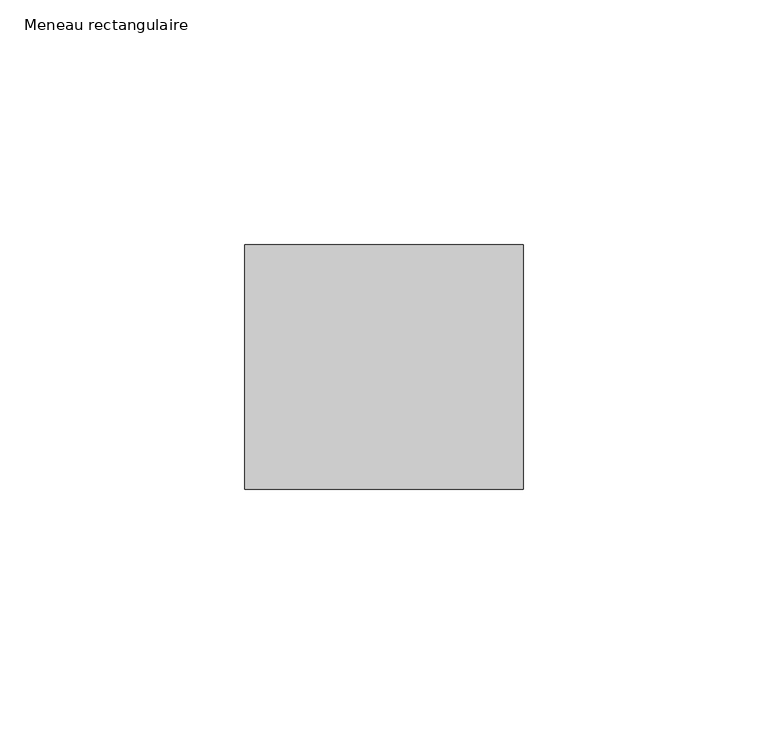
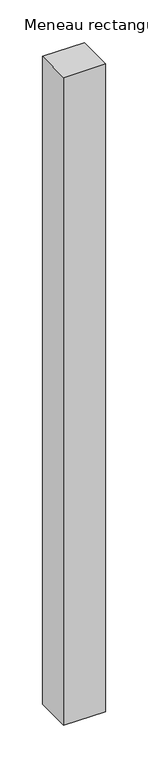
"""IFC4 building model written with IfcOpenShell, lengths in millimetres: member geometry, Meneau rectangulaire : LISSERIE_PLAFOND 85-KLP00-P80-SD57XC."""

import ifcopenshell
import ifcopenshell.guid

model = None  # the IFC model being written
_history = None  # IfcOwnerHistory: only IFC2X3 demands one
_inside = {}  # id of a spatial element -> (the spatial element, [elements in it])
_under = {}  # id of a project, library or spatial element -> (it, [spatial elements below it])
_declared = {}  # id of a project -> (the project, [libraries it declares])
_typed = {}  # id of a type object -> (the type object, [elements of that type])
_made_of = {}  # id of a material, layer set ... -> (it, [elements and type objects made of it])


def new_model(schema):
    """Start an empty IFC model of exactly this schema.

    Asked for "IFC4X3", IfcOpenShell would pick the latest addendum, in which some entities
    have other attributes; the version numbers below select the first issue.
    IFC2X3 requires an IfcOwnerHistory on every rooted entity: one is made here for all.
    """
    global model, _history
    if schema == "IFC4X3":
        model = ifcopenshell.file(schema_version=(4, 3, 0, 0))
    else:
        model = ifcopenshell.file(schema=schema)
    _inside.clear()
    _under.clear()
    _declared.clear()
    _typed.clear()
    _made_of.clear()
    _history = None
    if model.schema == "IFC2X3":
        org = make("IfcOrganization", Name="unknown")
        user = make(
            "IfcPersonAndOrganization",
            ThePerson=make("IfcPerson", FamilyName="unknown"),
            TheOrganization=org,
        )
        app = make(
            "IfcApplication",
            ApplicationDeveloper=org,
            Version="unknown",
            ApplicationFullName="unknown",
            ApplicationIdentifier="unknown",
        )
        _history = make(
            "IfcOwnerHistory",
            OwningUser=user,
            OwningApplication=app,
            ChangeAction="ADDED",
            CreationDate=0,
        )
    return model


def make(cls, **values):
    """One entity of the class cls with the attributes given. An attribute that is None is left unset."""
    return model.create_entity(
        cls, **{name: value for name, value in values.items() if value is not None}
    )


def rooted(cls, **values):
    """An entity with a GlobalId (a new one), such as an element, a storey or a relation."""
    return make(cls, GlobalId=ifcopenshell.guid.new(), OwnerHistory=_history, **values)


def si_unit(unit_type, name, prefix=None):
    """IfcSIUnit, for example si_unit("LENGTHUNIT", "METRE", prefix="MILLI")."""
    return make("IfcSIUnit", UnitType=unit_type, Prefix=prefix, Name=name)


def assignment(units):
    """IfcUnitAssignment: the units of a project."""
    return None if units is None else make("IfcUnitAssignment", Units=units)


def point(xyz):
    """IfcCartesianPoint."""
    return None if xyz is None else make("IfcCartesianPoint", Coordinates=xyz)


def direction(xyz):
    """IfcDirection."""
    return None if xyz is None else make("IfcDirection", DirectionRatios=xyz)


def frame(location, z_axis=None, x_axis=None):
    """IfcAxis2Placement3D, a coordinate frame: its origin and axes. An axis left out is left unset."""
    return make(
        "IfcAxis2Placement3D",
        Location=point(location),
        Axis=direction(z_axis),
        RefDirection=direction(x_axis),
    )


def origin():
    """The frame at (0, 0, 0) with its axes left unset."""
    return frame((0.0, 0.0, 0.0))


def place(relative_to, where):
    """IfcLocalPlacement: puts the frame where relative to a parent placement (None: the world)."""
    return make(
        "IfcLocalPlacement", PlacementRelTo=relative_to, RelativePlacement=where
    )


def context(
    kind, dimensions, precision=None, world=None, true_north=None, identifier=None
):
    """IfcGeometricRepresentationContext, for example the 3D "Model" context."""
    return make(
        "IfcGeometricRepresentationContext",
        ContextIdentifier=identifier,
        ContextType=kind,
        CoordinateSpaceDimension=dimensions,
        Precision=precision,
        WorldCoordinateSystem=world,
        TrueNorth=true_north,
    )


def project(units=None, contexts=None):
    """IfcProject with its units and contexts."""
    return rooted(
        "IfcProject",
        Name="project",
        RepresentationContexts=contexts,
        UnitsInContext=assignment(units),
    )


def spatial(cls, under=None, at=None, **own):
    """A site, building, storey or space (cls), placed at a placement, below another one or the project."""
    s = rooted(cls, ObjectPlacement=at, **own)
    if under is not None:
        _under.setdefault(under.id(), (under, []))[1].append(s)
    return s


def polyline(points):
    """IfcPolyline through the points."""
    return make("IfcPolyline", Points=[point(p) for p in points])


def outline(outer, holes=None, kind="AREA"):
    """IfcArbitraryClosedProfileDef: a profile drawn as a closed curve; with holes, ...WithVoids."""
    if holes is None:
        return make("IfcArbitraryClosedProfileDef", ProfileType=kind, OuterCurve=outer)
    return make(
        "IfcArbitraryProfileDefWithVoids",
        ProfileType=kind,
        OuterCurve=outer,
        InnerCurves=holes,
    )


def extrude(swept, where, along, depth):
    """IfcExtrudedAreaSolid: the profile swept, set in the frame where, extruded along a direction by depth."""
    return make(
        "IfcExtrudedAreaSolid",
        SweptArea=swept,
        Position=where,
        ExtrudedDirection=direction(along),
        Depth=depth,
    )


def shape(context_of_items, identifier, shape_type, items):
    """IfcShapeRepresentation: the items that make up one representation, for example the "Body"."""
    return make(
        "IfcShapeRepresentation",
        ContextOfItems=context_of_items,
        RepresentationIdentifier=identifier,
        RepresentationType=shape_type,
        Items=items,
    )


def source(mapping_origin, context_of_items, identifier, shape_type, items):
    """IfcRepresentationMap: a shape defined once, which mapped items show again and again."""
    return make(
        "IfcRepresentationMap",
        MappingOrigin=mapping_origin,
        MappedRepresentation=shape(context_of_items, identifier, shape_type, items),
    )


def transform(
    local_origin,
    x_axis=None,
    y_axis=None,
    z_axis=None,
    scale=None,
    scale2=None,
    scale3=None,
    uniform=True,
):
    """IfcCartesianTransformationOperator3D, or its non-uniform kind. x_axis, y_axis, z_axis: its Axis1, 2, 3."""
    if uniform:
        return make(
            "IfcCartesianTransformationOperator3D",
            Axis1=direction(x_axis),
            Axis2=direction(y_axis),
            LocalOrigin=point(local_origin),
            Scale=scale,
            Axis3=direction(z_axis),
        )
    return make(
        "IfcCartesianTransformationOperator3DnonUniform",
        Axis1=direction(x_axis),
        Axis2=direction(y_axis),
        LocalOrigin=point(local_origin),
        Scale=scale,
        Axis3=direction(z_axis),
        Scale2=scale2,
        Scale3=scale3,
    )


def mapped(mapping_source, mapping_target):
    """IfcMappedItem: shows the shape of a source again, moved by a transform."""
    return make(
        "IfcMappedItem", MappingSource=mapping_source, MappingTarget=mapping_target
    )


def made_of(thing, what):
    """Note that an element or type object is made of a material, layer set ...; save() writes the relation."""
    if what is not None:
        _made_of.setdefault(what.id(), (what, []))[1].append(thing)
    return thing


def element(
    cls,
    number,
    at=None,
    inside=None,
    cuts=None,
    type_object=None,
    material=None,
    context=None,
    identifier="Body",
    shape_type=None,
    held_by="IfcProductDefinitionShape",
    body=None,
    shapes=None,
    **own,
):
    """One element of the class cls, such as IfcWall. Its Tag is "e" and its number.

    at: its placement. inside: the storey or other place that contains it. cuts: it is an
    opening in that element (IfcRelVoidsElement). A single representation is given by context,
    identifier, shape_type and body (its items); several are given by shapes. held_by: the class
    of the entity that holds the representations. save() writes the other relations.
    """
    e = rooted(cls, Tag="e%d" % number, ObjectPlacement=at, **own)
    if body is not None:
        shapes = [shape(context, identifier, shape_type, body)]
    if shapes is not None:
        e.Representation = make(held_by, Representations=shapes)
    if inside is not None:
        _inside.setdefault(inside.id(), (inside, []))[1].append(e)
    if cuts is not None:
        rooted(
            "IfcRelVoidsElement", RelatingBuildingElement=cuts, RelatedOpeningElement=e
        )
    if type_object is not None:
        _typed.setdefault(type_object.id(), (type_object, []))[1].append(e)
    return made_of(e, material)


def aggregate(whole, parts):
    """IfcRelAggregates: a whole, such as a stair, and the parts it consists of."""
    return rooted("IfcRelAggregates", RelatingObject=whole, RelatedObjects=parts)


def save(model, path):
    """Write the relations noted so far, then the file.

    IfcRelAggregates (storeys below a building ...), IfcRelContainedInSpatialStructure (elements
    in a storey), IfcRelDefinesByType, IfcRelAssociatesMaterial and IfcRelDeclares: one each for
    every whole, place, type object, material and project.
    """
    for whole, parts in _under.values():
        aggregate(whole, parts)
    for where, things in _inside.values():
        rooted(
            "IfcRelContainedInSpatialStructure",
            RelatedElements=things,
            RelatingStructure=where,
        )
    for kind, things in _typed.values():
        rooted("IfcRelDefinesByType", RelatedObjects=things, RelatingType=kind)
    for what, things in _made_of.values():
        rooted("IfcRelAssociatesMaterial", RelatedObjects=things, RelatingMaterial=what)
    for by, libraries in _declared.values():
        rooted("IfcRelDeclares", RelatingContext=by, RelatedDefinitions=libraries)
    model.write(path)


def meneau_rectangulaire_8a81fff2(model_context):
    return source(origin(), model_context, "Body", "SweptSolid", [
        extrude(outline(polyline([(0.0, -25.0), (-57.0, -25.0), (-57.0, 25.0), (0.0, 25.0), (0.0, -25.0)])), frame((0.0, 0.0, -929.5), z_axis=(0.0, 0.0, 1.0), x_axis=(1.0, 0.0, 0.0)), (0.0, 0.0, 1.0), 929.5),
    ])


if __name__ == "__main__":
    model = new_model("IFC4")
    model_context = context("Model", 3, world=origin())
    ifc_project = project(units=[si_unit("LENGTHUNIT", "METRE", prefix="MILLI")], contexts=[model_context])
    site = spatial("IfcSite", under=ifc_project)
    building = spatial("IfcBuilding", under=site)
    placement = place(None, origin())
    meneau_rectangulaire_shape = meneau_rectangulaire_8a81fff2(model_context)
    element("IfcMember", 1, ObjectType="Meneau rectangulaire : LISSERIE_PLAFOND 85-KLP00-P80-SD57XC", at=placement, inside=building, context=model_context, shape_type="MappedRepresentation", body=[
        mapped(meneau_rectangulaire_shape, transform((0.0, 0.0, 0.0), x_axis=(1.0, 0.0, 0.0), y_axis=(0.0, 1.0, 0.0), z_axis=(0.0, 0.0, 1.0))),
    ])
    save(model, "model.ifc")
